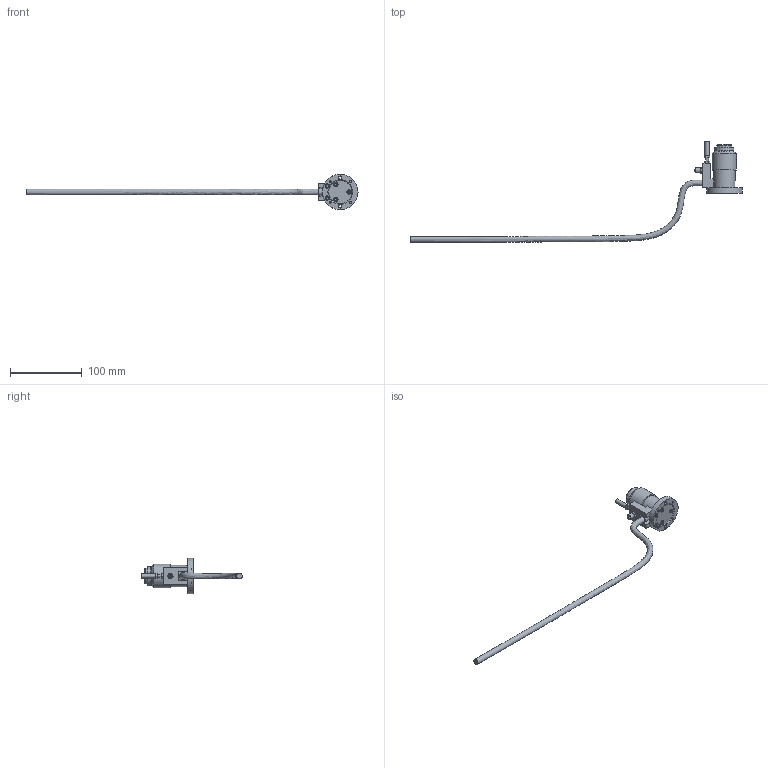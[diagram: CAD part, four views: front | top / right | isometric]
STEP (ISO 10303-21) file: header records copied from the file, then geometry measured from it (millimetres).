
FILE_DESCRIPTION(/* description */ (''),/* implementation_level */ '2;1');
FILE_NAME(/* name */ 'Z:\Проектный отдел\4INVENTOR Модели комплектующих\Комплектующие к ЧПУ\Датчики концевые\Датчик высоты нажимной ZDDY-CK6X-5M\Датчик высоты нажимной ZDDY-CK6X-5M.stp',/* time_stamp */ '2024-02-13T11:59:49+03:00',/* author */ ('User'),/* organization */ (''),/* preprocessor_version */ 'ST-DEVELOPER v18',/* originating_system */ 'Autodesk Inventor 2020',/* authorisation */ '');
FILE_SCHEMA (('AUTOMOTIVE_DESIGN { 1 0 10303 214 3 1 1 }'));
Length unit declared in the file: millimetre
Products named in the file (3): Сборка1; Деталь1; болтик
Assembly tree (5 placements, depth 2):
  Сборка1
    Деталь1
    болтик  x4
Bounding box: 464.1 x 140.69 x 49.5 mm (x, y, z)
Volume: 91403.5 mm3; surface area: 28279 mm2
Topology: 9 solids, 9 shells, 162 faces, 405 edges, 286 vertices
Faces by surface type: plane 121, cylinder 37, cone 2, torus 1, bspline 1
Full cylindrical faces by diameter (mm): 2 x5, 2.5 x1, 2.85 x4, 3 x4, 4 x1, 4.5 x8, 6 x6, 7 x1, 9.6 x1, 20 x1, 21.5 x1, 26.5 x1, 30 x1, 33.5 x1, 49.5 x1
Entity records: 5062 total; most frequent: CARTESIAN_POINT 1077, DIRECTION 823, ORIENTED_EDGE 750, EDGE_CURVE 375, AXIS2_PLACEMENT_3D 296, VERTEX_POINT 262, LINE 231, VECTOR 231
